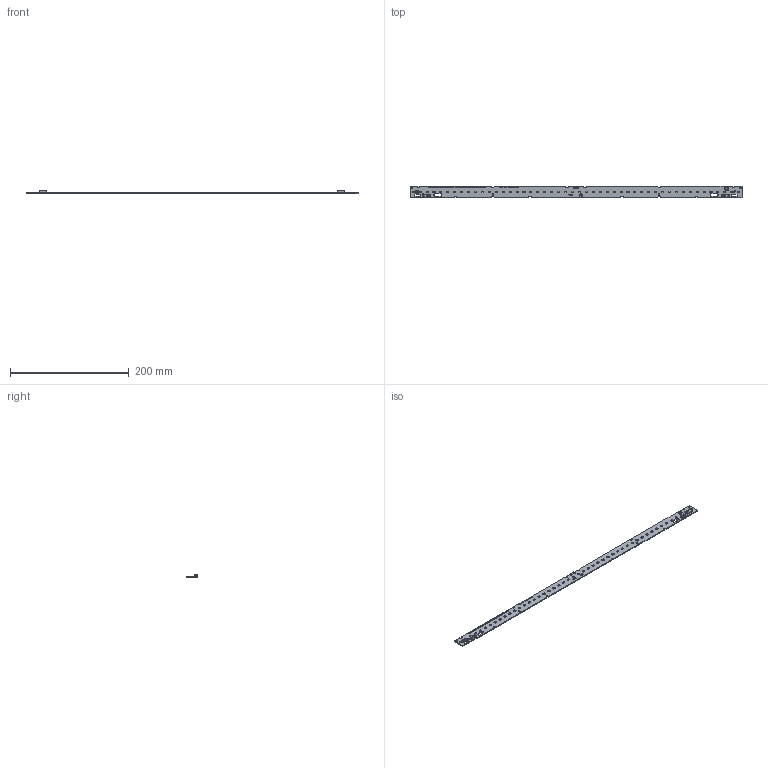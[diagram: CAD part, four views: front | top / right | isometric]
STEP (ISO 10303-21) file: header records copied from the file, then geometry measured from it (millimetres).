
FILE_DESCRIPTION(('Creo Elements/Direct Modeling STEP Export'),'2;1');
FILE_NAME('3D-Model_WU-M-738-TC.stp','2024-12-03T14:02:27',(''),(''),'PTC Creo Elements/Direct Modeling STEP processor for AP214 (Solid Model)','PTC Creo Elements/Direct Modeling 19.0E 27-Jun-2016 (C) Parametric Technology GmbH','');
FILE_SCHEMA(('AUTOMOTIVE_DESIGN { 1 0 10303 214 1 1 1 1 }'));
Length unit declared in the file: millimetre
Products named in the file (118): p1.1; p1; ______STEP.ASM; _____-0_STEP.PRT; _____-0_STEP.PRT.1; _____-0_STEP.PRT.1.1; _____-0_STEP.PRT.1.12.1; Dioda02; Dioda01; Dioda; Baza-ploca; 3D-Adresa.37; 3D-Adresa.42; 3D-Adresa.41; 3D-Adresa.39; 3D-Adresa.36; 3D-Adresa.43; 3D-Adresa.38; 3D-Adresa.44; 3D-Adresa.40; 3D-Adresa.65; 3D-Adresa.64; 3D-Adresa.62; 3D-Adresa.61; 3D-Adresa.66; 3D-Adresa.57; 3D-Adresa.59; 3D-Adresa.67; 3D-Adresa.63; 3D-Adresa.60; 3D-Adresa.58; 3D-Adresa.1; 3D-Adresa; 3D-Adresa.15; 3D-Adresa.23; 3D-Adresa.17; 3D-Adresa.19; 3D-Adresa.20; 3D-Adresa.24; 3D-Adresa.22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
Assembly tree (156 placements, depth 4):
  p1.1
  p1
  Dioda
    Dioda01
      Dioda02
        _____-0_STEP.PRT.1.12.1  x12
        _____-0_STEP.PRT.1.1  x12
        _____-0_STEP.PRT.1  x12
        _____-0_STEP.PRT  x12
        ______STEP.ASM
  Baza-ploca
  Adresa
    3D-Adresa.94
    3D-Adresa.97
    3D-Adresa.91
    3D-Adresa.102
    3D-Adresa.95
    3D-Adresa.93
    3D-Adresa.90
    3D-Adresa.99
    3D-Adresa.100
    3D-Adresa.92
    3D-Adresa.96
    3D-Adresa.98
    3D-Adresa.101
    3D-Adresa.85
    3D-Adresa.80
    3D-Adresa.81
    3D-Adresa.82
    3D-Adresa.84
    3D-Adresa.87
    3D-Adresa.88
    3D-Adresa.89
    3D-Adresa.86
    3D-Adresa.79
    3D-Adresa.83
    3D-Adresa.72
    3D-Adresa.77
    3D-Adresa.76
    3D-Adresa.74
    3D-Adresa.71
    3D-Adresa.68
    3D-Adresa.69
    3D-Adresa.73
    3D-Adresa.75
    3D-Adresa.78
    3D-Adresa.70
    3D-Adresa.35
    3D-Adresa.26
    3D-Adresa.31
    3D-Adresa.32
    3D-Adresa.33
    3D-Adresa.34
    3D-Adresa.28
    3D-Adresa.29
    3D-Adresa.27
    3D-Adresa.45
    3D-Adresa.30
    3D-Adresa.2
    3D-Adresa.3
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Bounding box: 559 x 20 x 6.1 mm (x, y, z)
Volume: 17627.4 mm3; surface area: 26438.9 mm2
Topology: 106 solids, 346 shells, 9403 faces, 25159 edges, 16306 vertices
Faces by surface type: plane 7585, cylinder 1814, sphere 4
Entity records: 124407 total; most frequent: CARTESIAN_POINT 17417, ORIENTED_EDGE 16990, DIRECTION 16361, EDGE_CURVE 8479, VECTOR 6881, LINE 6881, VERTEX_POINT 5614, AXIS2_PLACEMENT_3D 4740
